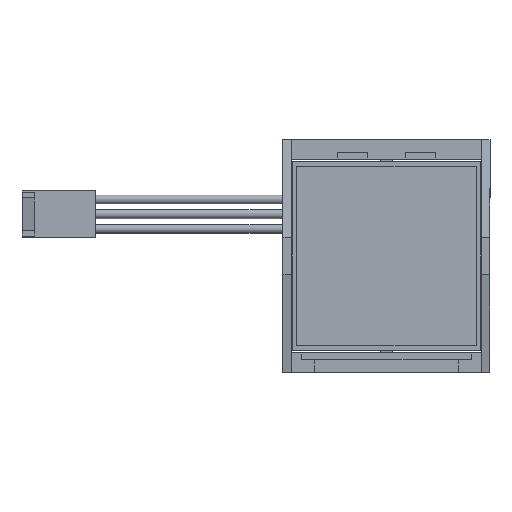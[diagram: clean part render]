
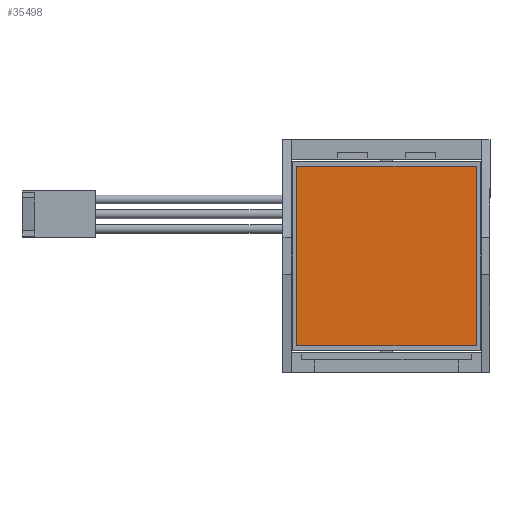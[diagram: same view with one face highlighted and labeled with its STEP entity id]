
A CAD part, front view. The second image highlights one B-rep face of the part: STEP entity #35498.
In plain terms, the highlighted planar face has unit normal (0, -1, 0).
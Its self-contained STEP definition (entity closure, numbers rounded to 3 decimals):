
#15 = CARTESIAN_POINT ( 'NONE',  ( 15.5, -0.127, -15.5 ) ) ;
#1454 = FACE_OUTER_BOUND ( 'NONE', #54083, .T. ) ;
#3091 = LINE ( 'NONE', #29243, #13346 ) ;
#7197 = AXIS2_PLACEMENT_3D ( 'NONE', #65164, #64480, #17440 ) ;
#10383 = DIRECTION ( 'NONE',  ( 0., 0., 1. ) ) ;
#13125 = LINE ( 'NONE', #44861, #47674 ) ;
#13346 = VECTOR ( 'NONE', #10383, 1000. ) ;
#13348 = CARTESIAN_POINT ( 'NONE',  ( -15.5, -0.127, 15.5 ) ) ;
#17440 = DIRECTION ( 'NONE',  ( 0., 0., 1. ) ) ;
#18042 = LINE ( 'NONE', #60552, #29931 ) ;
#20284 = ORIENTED_EDGE ( 'NONE', *, *, #66347, .F. ) ;
#22192 = ORIENTED_EDGE ( 'NONE', *, *, #45684, .F. ) ;
#23344 = ORIENTED_EDGE ( 'NONE', *, *, #45750, .F. ) ;
#27171 = VERTEX_POINT ( 'NONE', #28265 ) ;
#28265 = CARTESIAN_POINT ( 'NONE',  ( -15.5, -0.127, -15.5 ) ) ;
#28479 = LINE ( 'NONE', #64710, #53273 ) ;
#29243 = CARTESIAN_POINT ( 'NONE',  ( -15.5, -0.127, -15.5 ) ) ;
#29931 = VECTOR ( 'NONE', #34021, 1000. ) ;
#34021 = DIRECTION ( 'NONE',  ( -1., 0., 0. ) ) ;
#35498 = ADVANCED_FACE ( 'NONE', ( #1454 ), #43596, .F. ) ;
#37385 = VERTEX_POINT ( 'NONE', #15 ) ;
#38216 = DIRECTION ( 'NONE',  ( 1., 0., 0. ) ) ;
#38900 = DIRECTION ( 'NONE',  ( 0., 0., -1. ) ) ;
#43596 = PLANE ( 'NONE',  #7197 ) ;
#44861 = CARTESIAN_POINT ( 'NONE',  ( 15.5, -0.127, -15.5 ) ) ;
#45684 = EDGE_CURVE ( 'NONE', #56875, #60161, #28479, .T. ) ;
#45750 = EDGE_CURVE ( 'NONE', #60161, #37385, #13125, .T. ) ;
#46077 = EDGE_CURVE ( 'NONE', #37385, #27171, #18042, .T. ) ;
#47674 = VECTOR ( 'NONE', #38900, 1000. ) ;
#53273 = VECTOR ( 'NONE', #38216, 1000. ) ;
#53321 = ORIENTED_EDGE ( 'NONE', *, *, #46077, .F. ) ;
#54083 = EDGE_LOOP ( 'NONE', ( #20284, #53321, #23344, #22192 ) ) ;
#56875 = VERTEX_POINT ( 'NONE', #13348 ) ;
#58418 = CARTESIAN_POINT ( 'NONE',  ( 15.5, -0.127, 15.5 ) ) ;
#60161 = VERTEX_POINT ( 'NONE', #58418 ) ;
#60552 = CARTESIAN_POINT ( 'NONE',  ( -15.5, -0.127, -15.5 ) ) ;
#64480 = DIRECTION ( 'NONE',  ( 0., 1., 0. ) ) ;
#64710 = CARTESIAN_POINT ( 'NONE',  ( -15.5, -0.127, 15.5 ) ) ;
#65164 = CARTESIAN_POINT ( 'NONE',  ( -15.5, -0.127, 15.5 ) ) ;
#66347 = EDGE_CURVE ( 'NONE', #27171, #56875, #3091, .T. ) ;
